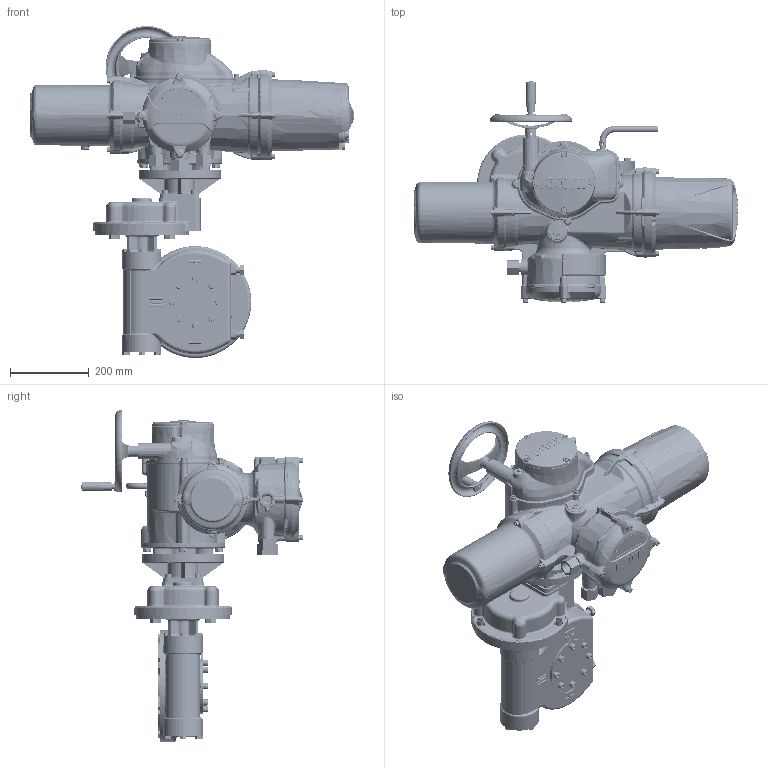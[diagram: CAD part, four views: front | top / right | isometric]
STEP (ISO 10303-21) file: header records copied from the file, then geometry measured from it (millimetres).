
FILE_DESCRIPTION( ( 'Unknown' ), '1' );
FILE_NAME( 'S:/Release/InstallationDrgs-IQmk3/Datasheets for Bishams release program/IQMK3 DATASHEETS/IQ3, IW4- 11 & 13/II3SHWIW5RHSTD-1.stp', 'Unknown', ( 'Unknown' ), ( 'Unknown' ), 'PSStep 16.0.42', 'Unknown', ' ' );
FILE_SCHEMA( ( 'AUTOMOTIVE_DESIGN { 1 0 10303 214 1 1 1 1 }' ) );
Length unit declared in the file: millimetre
Products named in the file (9): II0-20SHORT-std
Bounding box: 825.55 x 563.65 x 845.69 mm (x, y, z)
Volume: 329306.3 mm3; surface area: 1720177.7 mm2
Topology: 91 solids, 92 shells, 7486 faces, 18429 edges, 10978 vertices
Faces by surface type: bspline 2363, plane 2141, cylinder 1114, torus 761, cone 735, sphere 208, extrusion 128, revolution 21, offset 15
Full cylindrical faces by diameter (mm): 1.152 x1, 3 x8, 4.917 x6, 5.5 x1, 6 x3, 6.2 x2, 6.45 x8, 6.47 x8, 6.5 x1, 7 x4, 7.6 x4, 8 x21, 8.1 x1, 8.2 x1, 8.5 x4, 9.7 x2, 10 x25, 10.3 x8, 10.45 x4, 10.47 x4, 10.5 x12, 10.625 x4, 11 x8, 11.78 x1, 12 x4, 12.1 x1, 12.444 x1, 12.5 x4, 13 x13, 13.25 x8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
Entity records: 679502 total; most frequent: CARTESIAN_POINT 467545, ORIENTED_EDGE 34436, DIRECTION 27045, EDGE_CURVE 17218, AXIS2_PLACEMENT_3D 11334, VERTEX_POINT 10646, EDGE_LOOP 8327, FACE_OUTER_BOUND 7815
